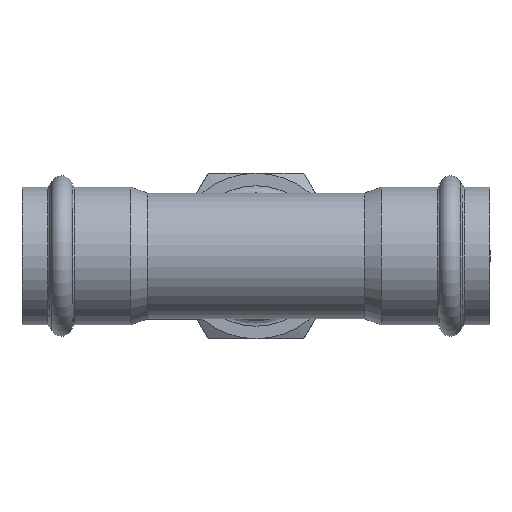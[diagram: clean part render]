
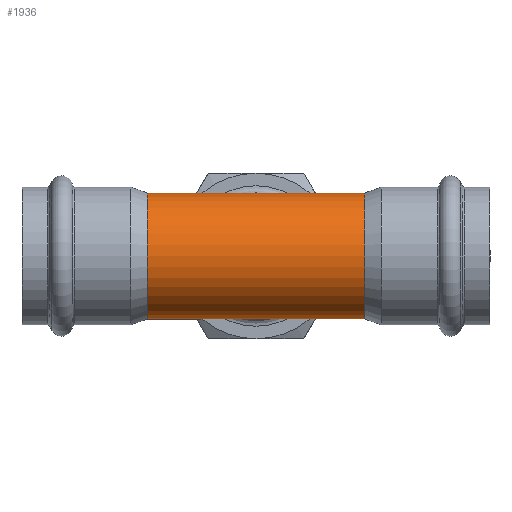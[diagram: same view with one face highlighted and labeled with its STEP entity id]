
A CAD part, front view. The second image highlights one B-rep face of the part: STEP entity #1936.
In plain terms, the highlighted cylindrical face has radius 17.5 mm (diameter 35 mm), a full revolution.
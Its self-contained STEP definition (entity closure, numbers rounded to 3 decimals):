
#1203=CARTESIAN_POINT('',(0.,0.0,-17.5));
#1204=VERTEX_POINT('',#1203);
#1205=CARTESIAN_POINT('',(0.,0.0,17.5));
#1206=VERTEX_POINT('',#1205);
#1214=CARTESIAN_POINT('',(0.0,0.,0.0));
#1215=DIRECTION('',(-0.697,0.717,0.));
#1216=DIRECTION('',(0.717,0.697,0.0));
#1217=AXIS2_PLACEMENT_3D('',#1214,#1215,#1216);
#1218=ELLIPSE('',#1217,25.105,17.5);
#1219=EDGE_CURVE('',#1206,#1204,#1218,.T.);
#1402=CARTESIAN_POINT('',(0.,0.,0.0));
#1403=DIRECTION('',(0.697,0.717,0.));
#1404=DIRECTION('',(-0.717,0.697,0.0));
#1405=AXIS2_PLACEMENT_3D('',#1402,#1403,#1404);
#1406=ELLIPSE('',#1405,25.105,17.5);
#1407=EDGE_CURVE('',#1204,#1206,#1406,.T.);
#1898=CARTESIAN_POINT('',(-30.271,17.5,0.0));
#1899=VERTEX_POINT('',#1898);
#1900=CARTESIAN_POINT('',(-30.271,0.,0.0));
#1901=DIRECTION('',(1.0,0.0,0.0));
#1902=DIRECTION('',(0.0,1.0,0.0));
#1903=AXIS2_PLACEMENT_3D('',#1900,#1901,#1902);
#1904=CIRCLE('',#1903,17.5);
#1905=EDGE_CURVE('',#1899,#1899,#1904,.T.);
#1913=CARTESIAN_POINT('',(15.135,0.,0.0));
#1914=DIRECTION('',(1.0,0.,0.0));
#1915=DIRECTION('',(0.0,1.0,0.0));
#1916=AXIS2_PLACEMENT_3D('',#1913,#1914,#1915);
#1917=CYLINDRICAL_SURFACE('',#1916,17.5);
#1918=ORIENTED_EDGE('',*,*,#1905,.T.);
#1919=EDGE_LOOP('',(#1918));
#1920=FACE_OUTER_BOUND('',#1919,.T.);
#1921=ORIENTED_EDGE('',*,*,#1219,.F.);
#1922=ORIENTED_EDGE('',*,*,#1407,.F.);
#1923=EDGE_LOOP('',(#1921,#1922));
#1924=FACE_BOUND('',#1923,.T.);
#1925=CARTESIAN_POINT('',(30.271,17.5,0.0));
#1926=VERTEX_POINT('',#1925);
#1927=CARTESIAN_POINT('',(30.271,0.,0.0));
#1928=DIRECTION('',(1.0,0.0,0.0));
#1929=DIRECTION('',(0.0,1.0,0.0));
#1930=AXIS2_PLACEMENT_3D('',#1927,#1928,#1929);
#1931=CIRCLE('',#1930,17.5);
#1932=EDGE_CURVE('',#1926,#1926,#1931,.T.);
#1933=ORIENTED_EDGE('',*,*,#1932,.F.);
#1934=EDGE_LOOP('',(#1933));
#1935=FACE_BOUND('',#1934,.T.);
#1936=ADVANCED_FACE('',(#1920,#1924,#1935),#1917,.T.);
